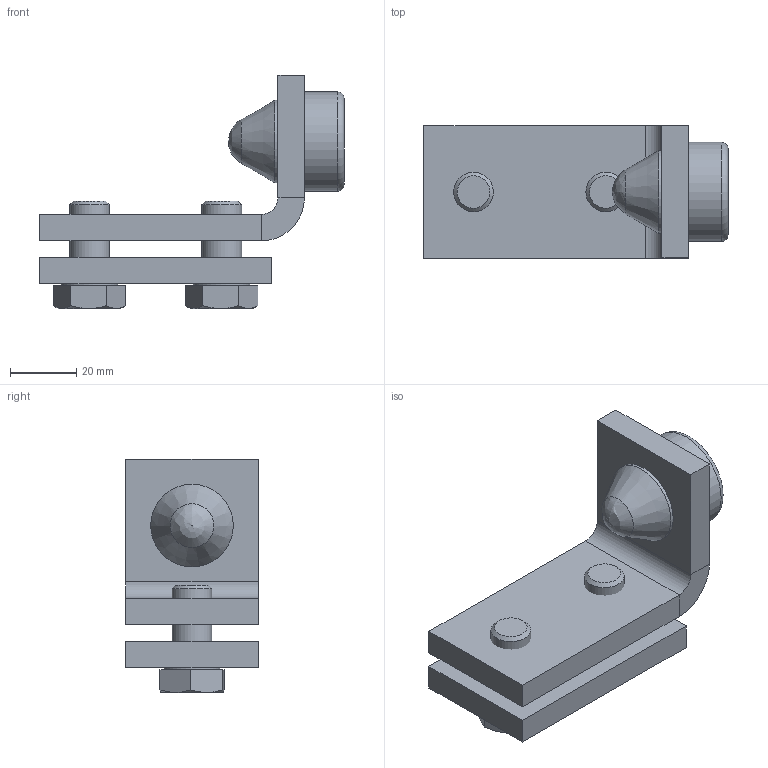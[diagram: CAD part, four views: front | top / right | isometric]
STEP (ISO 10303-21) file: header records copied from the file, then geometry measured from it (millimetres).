
FILE_DESCRIPTION(/* description */ ('Biegeteil mit Gewinde'),/* implementation_level */ '2;1');
FILE_NAME(/* name */ 'Q:\sge-ma\Produktmanagement-STB\STB\Workspace\stp\010336130.stp',/* time_stamp */ '2015-03-10T13:26:05+01:00',/* author */ ('avschreier'),/* organization */ (''),/* preprocessor_version */ 'ST-DEVELOPER v15.6',/* originating_system */ 'Autodesk Inventor 2015',/* authorisation */ '');
FILE_SCHEMA (('CONFIG_CONTROL_DESIGN'));
Length unit declared in the file: millimetre
Products named in the file (5): 337000255; 337000256; 004203020; DIN_EN_ISO_4017-M12x25_en; 010336130
Bounding box: 92 x 40 x 70.5 mm (x, y, z)
Volume: 78586.7 mm3; surface area: 27591.6 mm2
Topology: 5 solids, 5 shells, 81 faces, 163 edges, 99 vertices
Faces by surface type: plane 43, cylinder 17, cone 17, torus 3, bspline 1
Full cylindrical faces by diameter (mm): 6 x1, 10.106 x2, 11.053 x2, 12 x2, 12.5 x2, 17.2 x2, 22 x2, 25 x1, 30 x1
Entity records: 1622 total; most frequent: CARTESIAN_POINT 299, DIRECTION 270, ORIENTED_EDGE 206, AXIS2_PLACEMENT_3D 111, EDGE_CURVE 103, EDGE_LOOP 93, VERTEX_POINT 74, FACE_OUTER_BOUND 60
